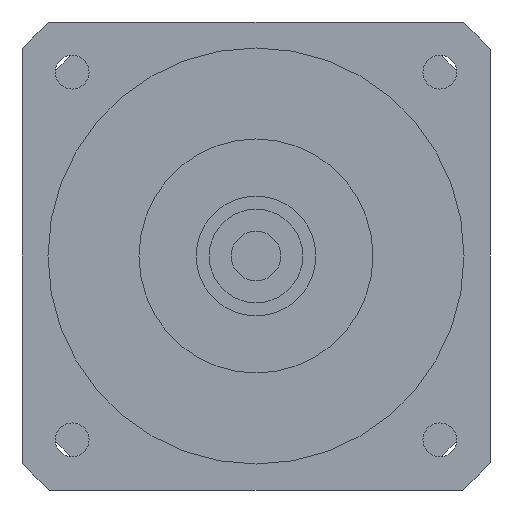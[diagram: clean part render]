
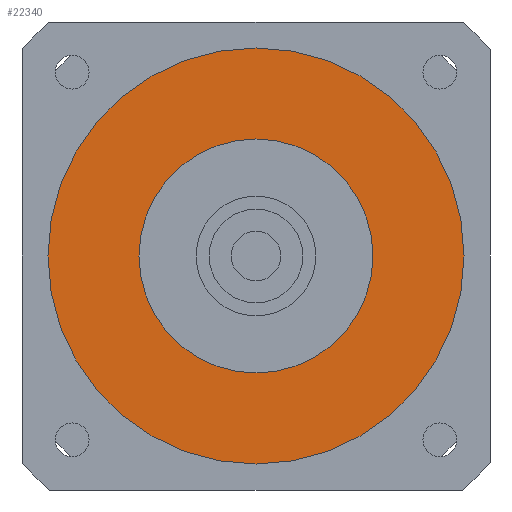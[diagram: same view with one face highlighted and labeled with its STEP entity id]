
A CAD part, left-side view. The second image highlights one B-rep face of the part: STEP entity #22340.
In plain terms, the highlighted planar face has unit normal (-1, 0, 0) as drawn and (0, 0, -1) by its records, which use the part's own axes.
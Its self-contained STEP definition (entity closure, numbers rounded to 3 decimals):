
#13830=CARTESIAN_POINT('',(0.,22.5,-54.));
#13840=VERTEX_POINT('',#13830);
#13870=CARTESIAN_POINT('',(0.,0.,-54.));
#13880=DIRECTION('',(0.,0.,1.));
#13890=DIRECTION('',(0.,1.,0.));
#13900=AXIS2_PLACEMENT_3D('',#13870,#13880,#13890);
#13910=CIRCLE('',#13900,22.5);
#13920=CARTESIAN_POINT('',(0.,-22.5,-54.));
#13930=VERTEX_POINT('',#13920);
#13940=EDGE_CURVE('',#13840,#13930,#13910,.T.);
#21900=CARTESIAN_POINT('',(0.,-40.,-54.));
#21910=VERTEX_POINT('',#21900);
#22000=CARTESIAN_POINT('',(0.,40.,-54.));
#22010=VERTEX_POINT('',#22000);
#22040=CARTESIAN_POINT('',(0.,0.,
-54.));
#22050=DIRECTION('',(0.,0.,1.));
#22060=DIRECTION('',(1.,0.,0.));
#22070=AXIS2_PLACEMENT_3D('',#22040,#22050,#22060);
#22080=CIRCLE('',#22070,40.);
#22090=CARTESIAN_POINT('',(40.,0.,-54.));
#22100=VERTEX_POINT('',#22090);
#22110=EDGE_CURVE('',#22100,#22010,#22080,.T.);
#22130=EDGE_CURVE('',#21910,#22100,#22080,.T.);
#22180=CARTESIAN_POINT('',(0.,0.,
-54.));
#22190=DIRECTION('',(0.,0.,1.));
#22200=DIRECTION('',(0.,1.,0.));
#22210=AXIS2_PLACEMENT_3D('',#22180,#22190,#22200);
#22220=PLANE('',#22210);
#22230=ORIENTED_EDGE('',*,*,#13940,.T.);
#22240=EDGE_CURVE('',#13930,#13840,#13910,.T.);
#22250=ORIENTED_EDGE('',*,*,#22240,.T.);
#22260=EDGE_LOOP('',(#22250,#22230));
#22270=FACE_BOUND('',#22260,.T.);
#22280=ORIENTED_EDGE('',*,*,#22110,.F.);
#22290=EDGE_CURVE('',#22010,#21910,#22080,.T.);
#22300=ORIENTED_EDGE('',*,*,#22290,.F.);
#22310=ORIENTED_EDGE('',*,*,#22130,.F.);
#22320=EDGE_LOOP('',(#22310,#22300,#22280));
#22330=FACE_OUTER_BOUND('',#22320,.T.);
#22340=ADVANCED_FACE('',(#22270,#22330),#22220,.F.);
